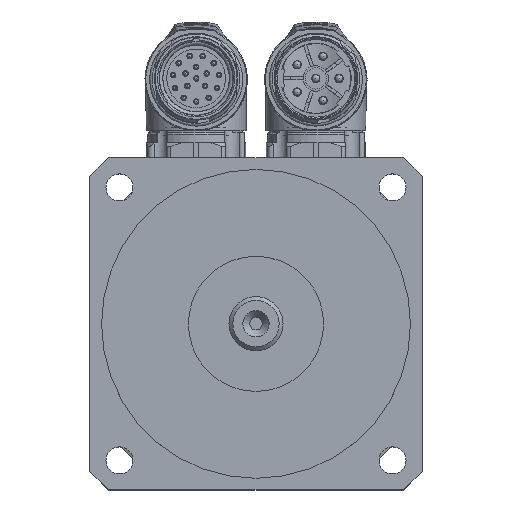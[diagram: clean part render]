
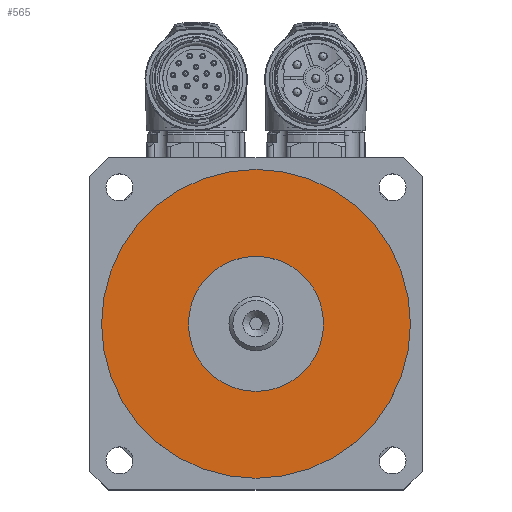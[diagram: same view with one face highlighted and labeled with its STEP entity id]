
A CAD part, top view. The second image highlights one B-rep face of the part: STEP entity #565.
In plain terms, the highlighted planar face has unit normal (0, 0, 1).
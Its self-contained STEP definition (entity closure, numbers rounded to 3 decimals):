
#502=CARTESIAN_POINT('',(17.5,0.,213.));
#503=VERTEX_POINT('',#502);
#504=CARTESIAN_POINT('',(0.0,0.0,213.));
#505=DIRECTION('',(0.0,0.0,-1.0));
#506=DIRECTION('',(-1.0,0.0,0.0));
#507=AXIS2_PLACEMENT_3D('',#504,#505,#506);
#508=CIRCLE('',#507,17.5);
#509=EDGE_CURVE('',#503,#503,#508,.T.);
#531=CARTESIAN_POINT('',(40.0,0.,213.));
#532=VERTEX_POINT('',#531);
#533=CARTESIAN_POINT('',(0.0,0.0,213.));
#534=DIRECTION('',(0.0,0.0,-1.0));
#535=DIRECTION('',(-1.0,0.0,0.0));
#536=AXIS2_PLACEMENT_3D('',#533,#534,#535);
#537=CIRCLE('',#536,40.0);
#538=EDGE_CURVE('',#532,#532,#537,.T.);
#554=CARTESIAN_POINT('',(0.0,0.0,213.));
#555=DIRECTION('',(0.0,0.0,-1.0));
#556=DIRECTION('',(-1.0,0.0,0.0));
#557=AXIS2_PLACEMENT_3D('',#554,#555,#556);
#558=PLANE('',#557);
#559=ORIENTED_EDGE('',*,*,#538,.F.);
#560=EDGE_LOOP('',(#559));
#561=FACE_OUTER_BOUND('',#560,.T.);
#562=ORIENTED_EDGE('',*,*,#509,.T.);
#563=EDGE_LOOP('',(#562));
#564=FACE_BOUND('',#563,.T.);
#565=ADVANCED_FACE('',(#561,#564),#558,.F.);
